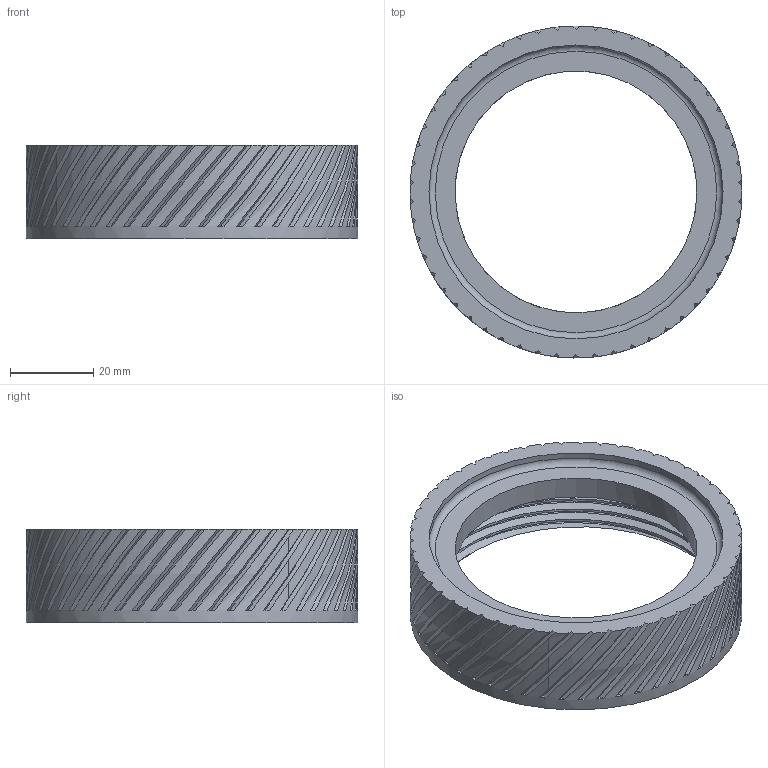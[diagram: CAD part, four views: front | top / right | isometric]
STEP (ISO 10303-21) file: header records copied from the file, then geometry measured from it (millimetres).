
FILE_DESCRIPTION(/* description */ ('STEP AP242','CAx-IF Rec.Pracs.---Representation and Presentation of Product Manufacturing Information (PMI)---4.0---2014-10-13','CAx-IF Rec.Pracs.---3D Tessellated Geometry---0.4---2014-09-14','2;1'),/* implementation_level */ '2;1');
FILE_NAME(/* name */ '64692894cac4670533c217d6',/* time_stamp */ '2023-05-20T20:07:48Z',/* author */ (''),/* organization */ (''),/* preprocessor_version */ 'ST-DEVELOPER v19.4',/* originating_system */ ' ',/* authorisation */ ' ');
FILE_SCHEMA (('AP242_MANAGED_MODEL_BASED_3D_ENGINEERING_MIM_LF { 1 0 10303 442 1 1 4 }'));
Length unit declared in the file: metre
Products named in the file (1): Base 25mm NoMagnet NoLug
Bounding box: 79.6 x 79.59 x 22.4 mm (x, y, z)
Volume: 30229.2 mm3; surface area: 16694.5 mm2
Topology: 1 solids, 1 shells, 225 faces, 662 edges, 442 vertices
Faces by surface type: bspline 144, plane 70, cylinder 7, cone 3, torus 1
Full cylindrical faces by diameter (mm): 58 x1, 70.5 x1, 79.6 x1
Entity records: 14038 total; most frequent: CARTESIAN_POINT 9685, ORIENTED_EDGE 1288, EDGE_CURVE 644, DIRECTION 439, VERTEX_POINT 432, B_SPLINE_CURVE_WITH_KNOTS 319, EDGE_LOOP 232, FACE_BOUND 232
